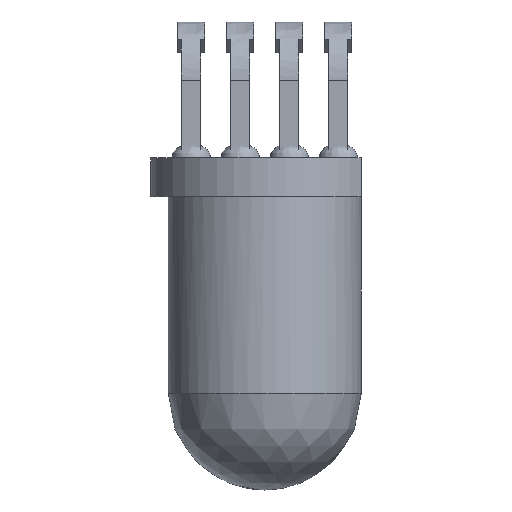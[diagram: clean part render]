
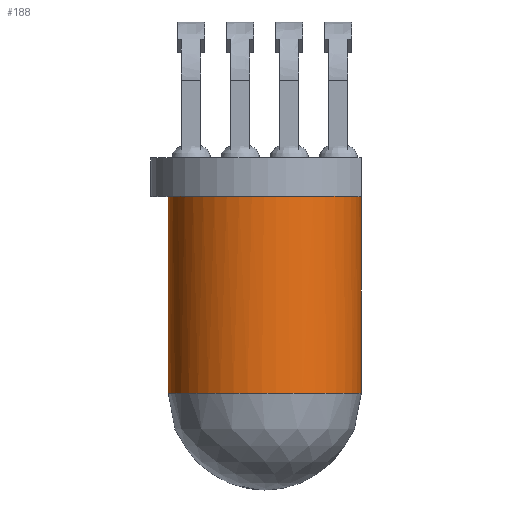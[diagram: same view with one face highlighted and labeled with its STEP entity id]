
A CAD part, top view. The second image highlights one B-rep face of the part: STEP entity #188.
In plain terms, the highlighted cylindrical face has radius 2.5 mm (diameter 5 mm), a full revolution.
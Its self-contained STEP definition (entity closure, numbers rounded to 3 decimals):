
#20=CYLINDRICAL_SURFACE('',#1388,2.5);
#35=(
BOUNDED_CURVE()
B_SPLINE_CURVE(2,(#4845,#4846,#4847,#4848,#4849,#4850,#4851),
 .UNSPECIFIED.,.F.,.F.)
B_SPLINE_CURVE_WITH_KNOTS((3,2,2,3),(-15.708,-11.781,
-7.854,-3.927),.UNSPECIFIED.)
CURVE()
GEOMETRIC_REPRESENTATION_ITEM()
RATIONAL_B_SPLINE_CURVE((1.,0.707,1.,0.707,1.,0.707,
1.))
REPRESENTATION_ITEM('')
);
#36=(
BOUNDED_CURVE()
B_SPLINE_CURVE(1,(#4852,#4853),.UNSPECIFIED.,.F.,.F.)
B_SPLINE_CURVE_WITH_KNOTS((2,2),(1.,6.1),.UNSPECIFIED.)
CURVE()
GEOMETRIC_REPRESENTATION_ITEM()
RATIONAL_B_SPLINE_CURVE((1.,1.))
REPRESENTATION_ITEM('')
);
#41=(
BOUNDED_CURVE()
B_SPLINE_CURVE(2,(#4878,#4879,#4880),.UNSPECIFIED.,.F.,.F.)
B_SPLINE_CURVE_WITH_KNOTS((3,3),(-3.927,0.),.UNSPECIFIED.)
CURVE()
GEOMETRIC_REPRESENTATION_ITEM()
RATIONAL_B_SPLINE_CURVE((1.,0.707,1.))
REPRESENTATION_ITEM('')
);
#42=(
BOUNDED_CURVE()
B_SPLINE_CURVE(2,(#4881,#4882,#4883,#4884,#4885,#4886,#4887,#4888,#4889,
#4890,#4891),.UNSPECIFIED.,.T.,.F.)
B_SPLINE_CURVE_WITH_KNOTS((3,2,2,2,2,3),(-15.708,-12.763,
-9.817,-6.872,-3.927,0.),.UNSPECIFIED.)
CURVE()
GEOMETRIC_REPRESENTATION_ITEM()
RATIONAL_B_SPLINE_CURVE((1.,0.831,1.,0.831,1.,0.831,
1.,0.831,1.,0.707,1.))
REPRESENTATION_ITEM('')
);
#188=ADVANCED_FACE('',(#268),#20,.T.);
#268=FACE_OUTER_BOUND('',#352,.T.);
#352=EDGE_LOOP('',(#723,#724,#725,#726,#727));
#723=ORIENTED_EDGE('',*,*,#926,.F.);
#724=ORIENTED_EDGE('',*,*,#934,.F.);
#725=ORIENTED_EDGE('',*,*,#925,.F.);
#726=ORIENTED_EDGE('',*,*,#926,.T.);
#727=ORIENTED_EDGE('',*,*,#935,.T.);
#925=EDGE_CURVE('',#1240,#1245,#35,.T.);
#926=EDGE_CURVE('',#1240,#1239,#36,.T.);
#934=EDGE_CURVE('',#1245,#1240,#41,.T.);
#935=EDGE_CURVE('',#1239,#1239,#42,.T.);
#1239=VERTEX_POINT('',#4811);
#1240=VERTEX_POINT('',#4812);
#1245=VERTEX_POINT('',#4817);
#1388=AXIS2_PLACEMENT_3D('',#4755,#1442,$);
#1442=DIRECTION('',(0.,-1.,0.));
#4755=CARTESIAN_POINT('',(50.,-8.5,8.));
#4811=CARTESIAN_POINT('',(50.,-8.1,5.5));
#4812=CARTESIAN_POINT('',(50.,-3.,5.5));
#4817=CARTESIAN_POINT('',(52.5,-3.,8.));
#4845=CARTESIAN_POINT('',(50.,-3.,5.5));
#4846=CARTESIAN_POINT('',(47.5,-3.,5.5));
#4847=CARTESIAN_POINT('',(47.5,-3.,8.));
#4848=CARTESIAN_POINT('',(47.5,-3.,10.5));
#4849=CARTESIAN_POINT('',(50.,-3.,10.5));
#4850=CARTESIAN_POINT('',(52.5,-3.,10.5));
#4851=CARTESIAN_POINT('',(52.5,-3.,8.));
#4852=CARTESIAN_POINT('',(50.,-3.,5.5));
#4853=CARTESIAN_POINT('',(50.,-8.1,5.5));
#4878=CARTESIAN_POINT('',(52.5,-3.,8.));
#4879=CARTESIAN_POINT('',(52.5,-3.,5.5));
#4880=CARTESIAN_POINT('',(50.,-3.,5.5));
#4881=CARTESIAN_POINT('',(50.,-8.1,5.5));
#4882=CARTESIAN_POINT('',(48.33,-8.1,5.5));
#4883=CARTESIAN_POINT('',(47.69,-8.1,7.043));
#4884=CARTESIAN_POINT('',(47.051,-8.1,8.587));
#4885=CARTESIAN_POINT('',(48.232,-8.1,9.768));
#4886=CARTESIAN_POINT('',(49.413,-8.1,10.949));
#4887=CARTESIAN_POINT('',(50.957,-8.1,10.31));
#4888=CARTESIAN_POINT('',(52.5,-8.1,9.67));
#4889=CARTESIAN_POINT('',(52.5,-8.1,8.));
#4890=CARTESIAN_POINT('',(52.5,-8.1,5.5));
#4891=CARTESIAN_POINT('',(50.,-8.1,5.5));
